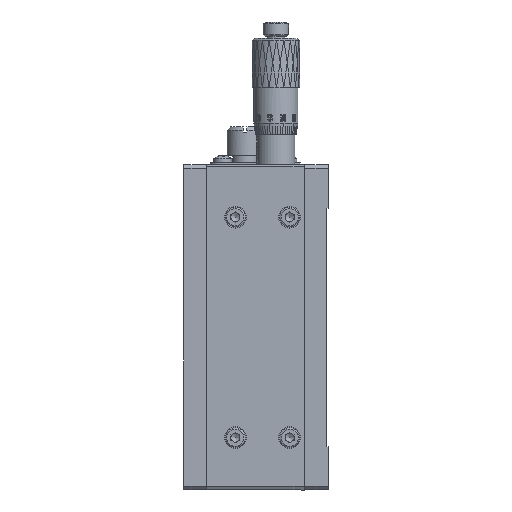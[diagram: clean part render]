
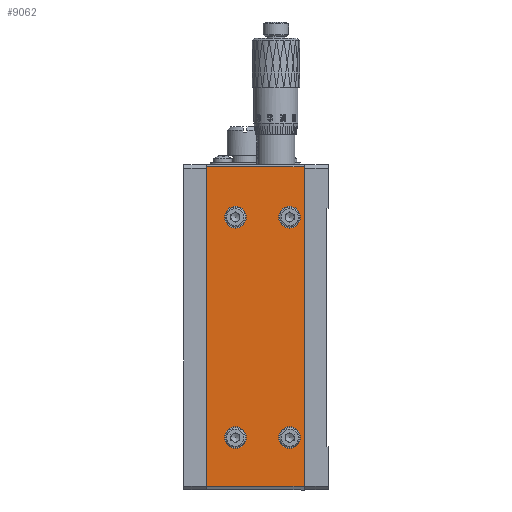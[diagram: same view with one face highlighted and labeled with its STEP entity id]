
A CAD part, left-side view. The second image highlights one B-rep face of the part: STEP entity #9062.
In plain terms, the highlighted planar face has unit normal (-1, 0, 0).
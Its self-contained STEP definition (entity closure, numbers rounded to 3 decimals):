
#62 = VERTEX_POINT ( 'NONE', #77180 ) ;
#2530 = CARTESIAN_POINT ( 'NONE',  ( 16.766, 29.657, 73.371 ) ) ;
#2616 = CARTESIAN_POINT ( 'NONE',  ( 16.766, 29.657, -15.052 ) ) ;
#4917 = VERTEX_POINT ( 'NONE', #21797 ) ;
#5631 = CARTESIAN_POINT ( 'NONE',  ( 16.766, 33.657, -4.552 ) ) ;
#5715 = DIRECTION ( 'NONE',  ( 0., 0., -1. ) ) ;
#7274 = CARTESIAN_POINT ( 'NONE',  ( 16.766, 29.657, -16.052 ) ) ;
#8536 = EDGE_LOOP ( 'NONE', ( #28686, #14507, #39871, #73668 ) ) ;
#8559 = LINE ( 'NONE', #67087, #65729 ) ;
#8647 = CIRCLE ( 'NONE', #77227, 3. ) ;
#9062 = ADVANCED_FACE ( 'NONE', ( #78238, #39065, #19696, #79056, #21362 ), #26423, .F. ) ;
#9456 = VECTOR ( 'NONE', #24042, 1000. ) ;
#11967 = VERTEX_POINT ( 'NONE', #2530 ) ;
#12307 = AXIS2_PLACEMENT_3D ( 'NONE', #53209, #71777, #77679 ) ;
#14507 = ORIENTED_EDGE ( 'NONE', *, *, #25743, .T. ) ;
#18157 = DIRECTION ( 'NONE',  ( 0., 0., -1. ) ) ;
#19221 = EDGE_CURVE ( 'NONE', #68423, #68423, #22677, .T. ) ;
#19356 = ORIENTED_EDGE ( 'NONE', *, *, #31407, .F. ) ;
#19696 = FACE_OUTER_BOUND ( 'NONE', #8536, .T. ) ;
#21362 = FACE_BOUND ( 'NONE', #80740, .T. ) ;
#21797 = CARTESIAN_POINT ( 'NONE',  ( 16.766, 56.657, 73.371 ) ) ;
#22536 = DIRECTION ( 'NONE',  ( 0., 0., -1. ) ) ;
#22677 = CIRCLE ( 'NONE', #49583, 3. ) ;
#24042 = DIRECTION ( 'NONE',  ( 0., -1., 0. ) ) ;
#24294 = DIRECTION ( 'NONE',  ( 0., 0., -1. ) ) ;
#24549 = DIRECTION ( 'NONE',  ( 0., 0., -1. ) ) ;
#25743 = EDGE_CURVE ( 'NONE', #62, #31525, #59072, .T. ) ;
#26423 = PLANE ( 'NONE',  #28080 ) ;
#26554 = CIRCLE ( 'NONE', #30575, 3. ) ;
#27647 = EDGE_LOOP ( 'NONE', ( #48755 ) ) ;
#28072 = VECTOR ( 'NONE', #22536, 1000. ) ;
#28080 = AXIS2_PLACEMENT_3D ( 'NONE', #45347, #52526, #33988 ) ;
#28686 = ORIENTED_EDGE ( 'NONE', *, *, #33033, .T. ) ;
#29178 = VECTOR ( 'NONE', #24549, 1000. ) ;
#30575 = AXIS2_PLACEMENT_3D ( 'NONE', #33974, #59679, #5715 ) ;
#31303 = VERTEX_POINT ( 'NONE', #5631 ) ;
#31407 = EDGE_CURVE ( 'NONE', #80518, #80518, #26554, .T. ) ;
#31525 = VERTEX_POINT ( 'NONE', #31804 ) ;
#31804 = CARTESIAN_POINT ( 'NONE',  ( 16.766, 29.657, -15.052 ) ) ;
#33033 = EDGE_CURVE ( 'NONE', #4917, #62, #60862, .T. ) ;
#33494 = EDGE_CURVE ( 'NONE', #11967, #4917, #8559, .T. ) ;
#33974 = CARTESIAN_POINT ( 'NONE',  ( 16.766, 48.657, -1.552 ) ) ;
#33988 = DIRECTION ( 'NONE',  ( 0., 0., 1. ) ) ;
#36392 = CARTESIAN_POINT ( 'NONE',  ( 16.766, 48.657, 56.448 ) ) ;
#36512 = CARTESIAN_POINT ( 'NONE',  ( 16.766, 33.657, -1.552 ) ) ;
#37836 = CIRCLE ( 'NONE', #12307, 3. ) ;
#38344 = DIRECTION ( 'NONE',  ( -1., 0., 0. ) ) ;
#39065 = FACE_BOUND ( 'NONE', #27647, .T. ) ;
#39871 = ORIENTED_EDGE ( 'NONE', *, *, #66872, .F. ) ;
#41959 = EDGE_CURVE ( 'NONE', #60233, #60233, #37836, .T. ) ;
#45347 = CARTESIAN_POINT ( 'NONE',  ( 16.766, 29.657, -16.052 ) ) ;
#47785 = CARTESIAN_POINT ( 'NONE',  ( 16.766, 56.657, -16.052 ) ) ;
#48755 = ORIENTED_EDGE ( 'NONE', *, *, #19221, .F. ) ;
#49583 = AXIS2_PLACEMENT_3D ( 'NONE', #69112, #38344, #18157 ) ;
#51273 = EDGE_LOOP ( 'NONE', ( #76307 ) ) ;
#52526 = DIRECTION ( 'NONE',  ( 1., 0., 0. ) ) ;
#53209 = CARTESIAN_POINT ( 'NONE',  ( 16.766, 33.657, 59.448 ) ) ;
#53598 = EDGE_LOOP ( 'NONE', ( #53677 ) ) ;
#53677 = ORIENTED_EDGE ( 'NONE', *, *, #41959, .F. ) ;
#53903 = CARTESIAN_POINT ( 'NONE',  ( 16.766, 33.657, 56.448 ) ) ;
#55654 = CARTESIAN_POINT ( 'NONE',  ( 16.766, 48.657, -4.552 ) ) ;
#59072 = LINE ( 'NONE', #2616, #9456 ) ;
#59533 = DIRECTION ( 'NONE',  ( 0., 1., 0. ) ) ;
#59679 = DIRECTION ( 'NONE',  ( -1., 0., 0. ) ) ;
#60233 = VERTEX_POINT ( 'NONE', #53903 ) ;
#60862 = LINE ( 'NONE', #47785, #28072 ) ;
#62233 = DIRECTION ( 'NONE',  ( -1., 0., 0. ) ) ;
#65729 = VECTOR ( 'NONE', #59533, 1000. ) ;
#66872 = EDGE_CURVE ( 'NONE', #11967, #31525, #77183, .T. ) ;
#67087 = CARTESIAN_POINT ( 'NONE',  ( 16.766, 29.657, 73.371 ) ) ;
#68423 = VERTEX_POINT ( 'NONE', #36392 ) ;
#69112 = CARTESIAN_POINT ( 'NONE',  ( 16.766, 48.657, 59.448 ) ) ;
#71777 = DIRECTION ( 'NONE',  ( -1., 0., 0. ) ) ;
#72400 = EDGE_CURVE ( 'NONE', #31303, #31303, #8647, .T. ) ;
#73668 = ORIENTED_EDGE ( 'NONE', *, *, #33494, .T. ) ;
#76307 = ORIENTED_EDGE ( 'NONE', *, *, #72400, .F. ) ;
#77180 = CARTESIAN_POINT ( 'NONE',  ( 16.766, 56.657, -15.052 ) ) ;
#77183 = LINE ( 'NONE', #7274, #29178 ) ;
#77227 = AXIS2_PLACEMENT_3D ( 'NONE', #36512, #62233, #24294 ) ;
#77679 = DIRECTION ( 'NONE',  ( 0., 0., -1. ) ) ;
#78238 = FACE_BOUND ( 'NONE', #51273, .T. ) ;
#79056 = FACE_BOUND ( 'NONE', #53598, .T. ) ;
#80518 = VERTEX_POINT ( 'NONE', #55654 ) ;
#80740 = EDGE_LOOP ( 'NONE', ( #19356 ) ) ;
